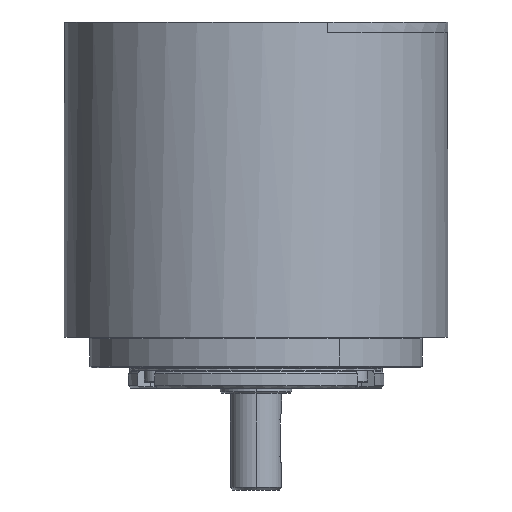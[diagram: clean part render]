
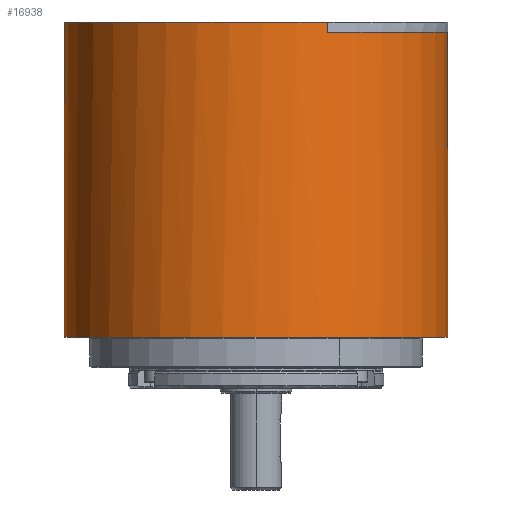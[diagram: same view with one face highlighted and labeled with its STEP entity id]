
A CAD part, left-side view. The second image highlights one B-rep face of the part: STEP entity #16938.
In plain terms, the highlighted cylindrical face has radius 37.5 mm (diameter 75 mm), a partial arc.
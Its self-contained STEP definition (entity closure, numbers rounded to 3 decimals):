
#1590=CARTESIAN_POINT('',(0.,0.,65.));
#1591=DIRECTION('',(0.,0.,-1.));
#1592=DIRECTION('',(0.704,0.71,0.));
#1593=AXIS2_PLACEMENT_3D('',#1590,#1591,#1592);
#1712=DIRECTION('',(0.,0.,-1.));
#1713=VECTOR('',#1712,5.6);
#1714=CARTESIAN_POINT('',(0.,37.5,11.));
#1715=LINE('',#1714,#1713);
#1719=DIRECTION('',(0.,0.,-1.));
#1720=VECTOR('',#1719,2.);
#1721=CARTESIAN_POINT('',(-34.769,-14.048,67.));
#1722=LINE('',#1721,#1720);
#1726=DIRECTION('',(0.,0.,-1.));
#1727=VECTOR('',#1726,2.);
#1728=CARTESIAN_POINT('',(34.769,14.048,67.));
#1729=LINE('',#1728,#1727);
#1733=CARTESIAN_POINT('',(0.,0.,11.));
#1734=DIRECTION('',(0.,0.,-1.));
#1735=DIRECTION('',(0.704,-0.71,0.));
#1736=AXIS2_PLACEMENT_3D('',#1733,#1734,#1735);
#1741=DIRECTION('',(0.,0.,-1.));
#1742=VECTOR('',#1741,5.6);
#1743=CARTESIAN_POINT('',(0.,-37.5,11.));
#1744=LINE('',#1743,#1742);
#1748=CARTESIAN_POINT('',(0.,0.,11.));
#1749=DIRECTION('',(0.,0.,-1.));
#1750=DIRECTION('',(0.,1.,0.));
#1751=AXIS2_PLACEMENT_3D('',#1748,#1749,#1750);
#1756=DIRECTION('',(0.,0.,-1.));
#1757=VECTOR('',#1756,54.);
#1758=CARTESIAN_POINT('',(26.389,26.644,65.));
#1759=LINE('',#1758,#1757);
#1763=CARTESIAN_POINT('',(0.,0.,65.));
#1764=DIRECTION('',(0.,0.,-1.));
#1765=DIRECTION('',(0.704,-0.71,0.));
#1766=AXIS2_PLACEMENT_3D('',#1763,#1764,#1765);
#1771=DIRECTION('',(0.,0.,1.));
#1772=VECTOR('',#1771,54.);
#1773=CARTESIAN_POINT('',(26.389,-26.644,11.));
#1774=LINE('',#1773,#1772);
#1778=CARTESIAN_POINT('',(0.,0.,5.4));
#1779=DIRECTION('',(0.,0.,-1.));
#1780=DIRECTION('',(0.,-1.,0.));
#1781=AXIS2_PLACEMENT_3D('',#1778,#1779,#1780);
#9624=CARTESIAN_POINT('',(0.,0.,67.));
#9625=DIRECTION('',(0.,0.,1.));
#9626=DIRECTION('',(0.927,0.375,0.));
#9627=AXIS2_PLACEMENT_3D('',#9624,#9625,#9626);
#14557=CARTESIAN_POINT('',(34.769,14.048,67.));
#14558=CARTESIAN_POINT('',(-34.769,-14.048,67.));
#14559=VERTEX_POINT('',#14557);
#14560=VERTEX_POINT('',#14558);
#14585=CARTESIAN_POINT('',(26.389,26.644,65.));
#14586=CARTESIAN_POINT('',(34.769,14.048,65.));
#14587=VERTEX_POINT('',#14585);
#14588=VERTEX_POINT('',#14586);
#14589=CARTESIAN_POINT('',(26.389,-26.644,65.));
#14590=VERTEX_POINT('',#14589);
#14591=CARTESIAN_POINT('',(-34.769,-14.048,65.));
#14592=VERTEX_POINT('',#14591);
#15706=CARTESIAN_POINT('',(0.,-37.5,5.4));
#15707=CARTESIAN_POINT('',(0.,37.5,5.4));
#15708=VERTEX_POINT('',#15706);
#15709=VERTEX_POINT('',#15707);
#15714=CARTESIAN_POINT('',(0.,37.5,11.));
#15715=CARTESIAN_POINT('',(26.389,26.644,11.));
#15716=VERTEX_POINT('',#15714);
#15717=VERTEX_POINT('',#15715);
#15718=CARTESIAN_POINT('',(26.389,-26.644,11.));
#15719=VERTEX_POINT('',#15718);
#15720=CARTESIAN_POINT('',(0.,-37.5,11.));
#15721=VERTEX_POINT('',#15720);
#16915=CARTESIAN_POINT('',(0.,0.,65.));
#16916=DIRECTION('',(0.,0.,-1.));
#16917=DIRECTION('',(-0.84,0.543,0.));
#16918=AXIS2_PLACEMENT_3D('',#16915,#16916,#16917);
#16919=CYLINDRICAL_SURFACE('',#16918,37.5);
#16920=ORIENTED_EDGE('',*,*,#16892,.T.);
#16921=ORIENTED_EDGE('',*,*,#16890,.T.);
#16923=ORIENTED_EDGE('',*,*,#16922,.T.);
#16924=ORIENTED_EDGE('',*,*,#16886,.F.);
#16925=ORIENTED_EDGE('',*,*,#16884,.T.);
#16927=ORIENTED_EDGE('',*,*,#16926,.F.);
#16928=ORIENTED_EDGE('',*,*,#16776,.T.);
#16929=ORIENTED_EDGE('',*,*,#16910,.F.);
#16931=ORIENTED_EDGE('',*,*,#16930,.T.);
#16932=ORIENTED_EDGE('',*,*,#16906,.T.);
#16933=ORIENTED_EDGE('',*,*,#16904,.F.);
#16935=ORIENTED_EDGE('',*,*,#16934,.F.);
#16936=EDGE_LOOP('',(#16920,#16921,#16923,#16924,#16925,#16927,#16928,#16929,
#16931,#16932,#16933,#16935));
#16937=FACE_OUTER_BOUND('',#16936,.F.);
#16938=ADVANCED_FACE('',(#16937),#16919,.T.);
#1594=CIRCLE('',#1593,37.5);
#1737=CIRCLE('',#1736,37.5);
#1752=CIRCLE('',#1751,37.5);
#1767=CIRCLE('',#1766,37.5);
#1782=CIRCLE('',#1781,37.5);
#9628=CIRCLE('',#9627,37.5);
#16776=EDGE_CURVE('',#14587,#14588,#1594,.T.);
#16884=EDGE_CURVE('',#15716,#15717,#1752,.T.);
#16886=EDGE_CURVE('',#15716,#15709,#1715,.T.);
#16890=EDGE_CURVE('',#15721,#15708,#1744,.T.);
#16892=EDGE_CURVE('',#15719,#15721,#1737,.T.);
#16904=EDGE_CURVE('',#14590,#14592,#1767,.T.);
#16906=EDGE_CURVE('',#14560,#14592,#1722,.T.);
#16910=EDGE_CURVE('',#14559,#14588,#1729,.T.);
#16922=EDGE_CURVE('',#15708,#15709,#1782,.T.);
#16926=EDGE_CURVE('',#14587,#15717,#1759,.T.);
#16930=EDGE_CURVE('',#14559,#14560,#9628,.T.);
#16934=EDGE_CURVE('',#15719,#14590,#1774,.T.);
